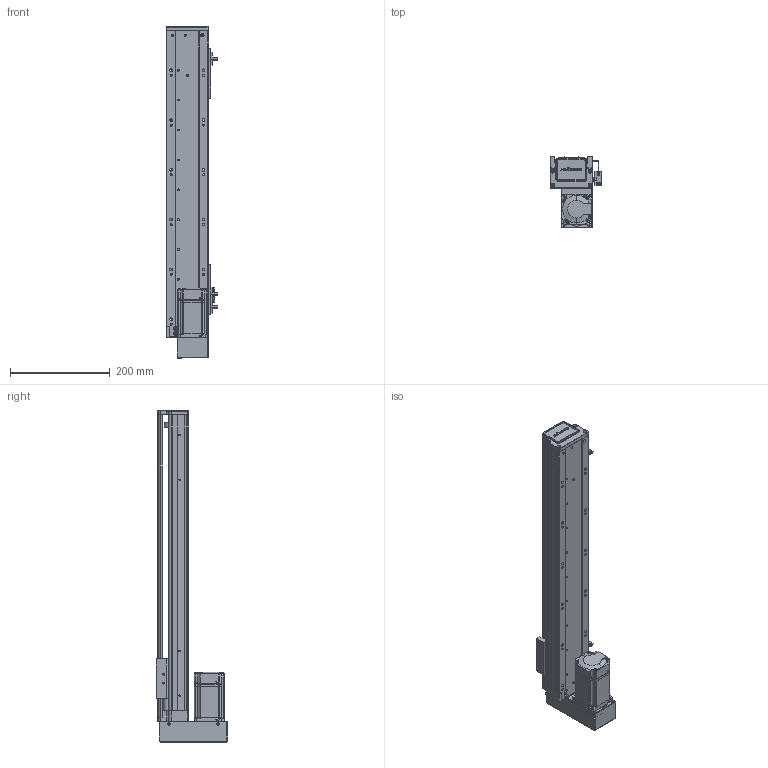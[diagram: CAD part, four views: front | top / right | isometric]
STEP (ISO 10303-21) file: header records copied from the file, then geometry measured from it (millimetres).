
FILE_DESCRIPTION (( 'STEP AP203' ), '1' );
FILE_NAME ('RY80-L1620-300-BK.SLDASM_450.step', '2021-02-20T07:10:37', ( '盈信电脑' ), ( '东莞市道滘镇水果街19号' ), 'SwSTEP 2.0', 'SolidWorks 2012', '' );
FILE_SCHEMA (( 'CONFIG_CONTROL_DESIGN' ));
Products named in the file (15): 滅袉蝶18-24; RY80-L1620-300-BK.SLDASM_450; RY80狟殏萇儂假蚾啣; RY80狟殏俋欶; 侂狟200W萇儂; 覜茼ん672; RY80俋离覜茼え; 1; RY80转接电机端支撑座; 滅袉蝶18-10; RY80-300蛌諉倰第奻裔啣-BK_450; T倰羞; RY80綴裔啣; RY80-300蛌諉倰第菁釱-BK_450; RY80臏賑輸
Assembly tree (17 placements, depth 3):
  RY80-L1620-300-BK.SLDASM_450
    RY80-300蛌諉倰第菁釱-BK_450
    RY80臏賑輸
    RY80-300蛌諉倰第奻裔啣-BK_450
    RY80綴裔啣
    滅袉蝶18-10
    T倰羞  x2
    覜茼ん672  x3
    RY80俋离覜茼え
    RY80转接电机端支撑座
    侂狟200W萇儂
      1
    RY80狟殏萇儂假蚾啣
    RY80狟殏俋欶
    滅袉蝶18-24
Bounding box: 103.7 x 144 x 667 mm (x, y, z)
Volume: 1420259.2 mm3; surface area: 544380.2 mm2
Topology: 16 solids, 16 shells, 2131 faces, 5869 edges, 3803 vertices
Faces by surface type: plane 1164, cylinder 771, cone 134, bspline 62
Entity records: 67617 total; most frequent: CARTESIAN_POINT 17228, ORIENTED_EDGE 10434, DIRECTION 9716, EDGE_CURVE 5217, VERTEX_POINT 3419, VECTOR 3242, LINE 3242, AXIS2_PLACEMENT_3D 3237
